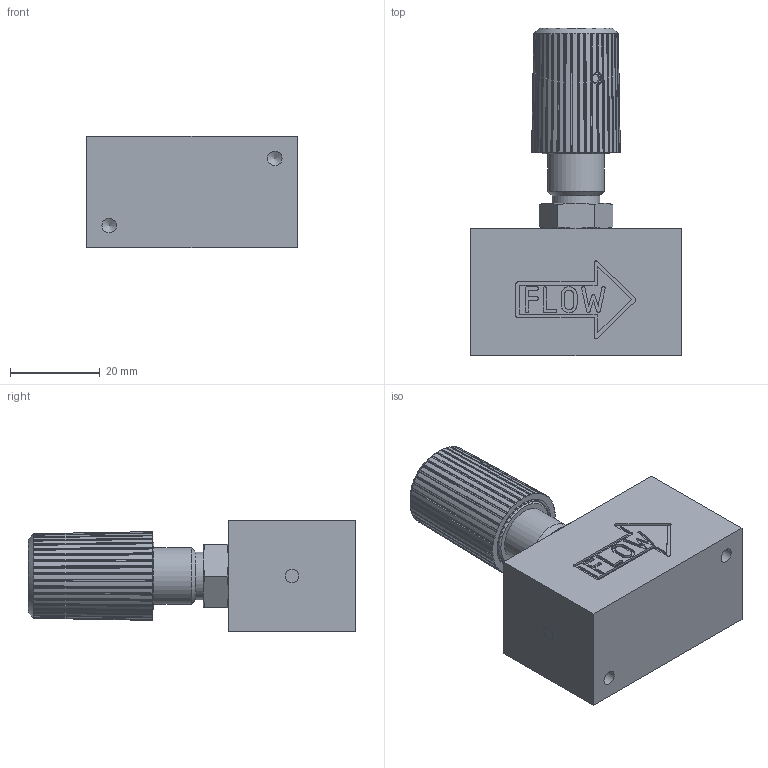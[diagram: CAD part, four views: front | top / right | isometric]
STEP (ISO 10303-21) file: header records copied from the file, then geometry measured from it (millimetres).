
FILE_DESCRIPTION(/* description */ (''),/* implementation_level */ '2;1');
FILE_NAME(/* name */ 'I:\3D\Eng\Marcel\Step-files MASS-VIEW controller\NV-0xx-HR.stp',/* time_stamp */ '2015-10-09T14:02:04+02:00',/* author */ ('M-Huiskes'),/* organization */ (''),/* preprocessor_version */ 'ST-DEVELOPER v15.6',/* originating_system */ 'Autodesk Inventor 2015',/* authorisation */ '');
FILE_SCHEMA (('CONFIG_CONTROL_DESIGN'));
Length unit declared in the file: millimetre
Products named in the file (1): Part14
Bounding box: 47 x 73.23 x 25 mm (x, y, z)
Volume: 42798.4 mm3; surface area: 11213.8 mm2
Topology: 1 solids, 1 shells, 467 faces, 1330 edges, 882 vertices
Faces by surface type: plane 315, cone 61, cylinder 59, bspline 32
Full cylindrical faces by diameter (mm): 2.616 x1, 2.642 x1, 3 x2, 3.242 x2, 6.299 x1, 10.668 x1, 12.7 x1, 13.716 x1, 16.891 x1
Entity records: 15265 total; most frequent: CARTESIAN_POINT 3512, ORIENTED_EDGE 2604, DIRECTION 2096, EDGE_CURVE 1302, VERTEX_POINT 872, LINE 792, VECTOR 792, AXIS2_PLACEMENT_3D 652
